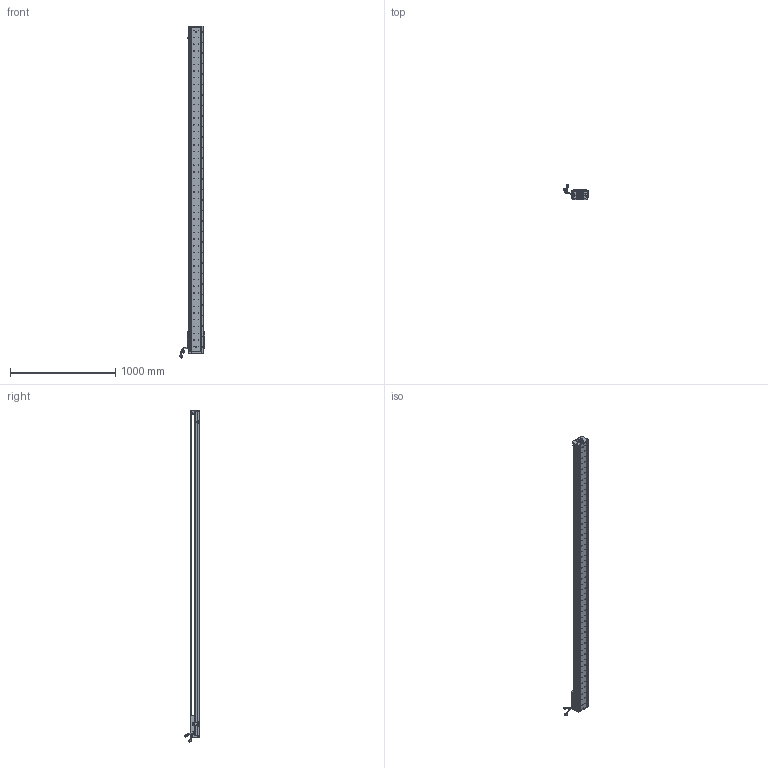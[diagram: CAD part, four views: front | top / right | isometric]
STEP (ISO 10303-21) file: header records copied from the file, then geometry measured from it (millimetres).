
FILE_DESCRIPTION (( 'STEP AP203' ), '1' );
FILE_NAME ('Z2-RY140D-1-L500-B-K.SLDASM_2850.step', '2021-05-17T07:51:30', ( '盈信电脑' ), ( '东莞市道滘镇水果街19号' ), 'SwSTEP 2.0', 'SolidWorks 2016', '' );
FILE_SCHEMA (( 'CONFIG_CONTROL_DESIGN' ));
Length unit declared in the file: millimetre
Products named in the file (36): 榋妏寠巭燃_暯_M2_2; HOLDER0; SHIELDPLATE; 140蚥薯蝶輸; SCREW-M1.6-1; SCREW-M1.7-1; SCREW-M1.6-2; Z2-RY140-L500直线电机模组底座_2850; SCALE; HARNESS-Part-2; PSLH080_PSLF2; SEAL; SCREW-M1.7; 140-Z-臏賑輸盄裔(21遴); Z-RY140詩湍狟揤裔; COVER; SCREW-M1.6; Z2-RY140圉猾敕臏賑輸(21遴); LABEL; Z-RY140感应器672光电感应片; Z-140詩湍傷裔啣; SCREW-M1.6-3; SCALE-Part-2; 覜茼ん672; COVER-Part-1; LABEL-Part-1; 080黍杅芛假蚾釱21遴; Z-RY140詩湍奻揤裔; PBU_SHEET; HARNESS-Part-1; 140雄赽晤鎢ん堤盄; HARNESS; Z2-RY140-L500詩湍100mm遵_2850; SEAL-Part-1; Z2-RY140D-1-L500-B-K.SLDASM_2850; SCALE-Part-1
Assembly tree (41 placements, depth 4):
  Z2-RY140D-1-L500-B-K.SLDASM_2850
    Z2-RY140-L500直线电机模组底座_2850
    Z-RY140感应器672光电感应片
    Z2-RY140圉猾敕臏賑輸(21遴)
    覜茼ん672  x3
    Z2-RY140-L500詩湍100mm遵_2850
    PSLH080_PSLF2
      SCALE
        SCALE-Part-1
        SCALE-Part-2
      HARNESS
        HARNESS-Part-1
        HARNESS-Part-2
      LABEL
        LABEL-Part-1
      COVER
        COVER-Part-1
      SEAL
        SEAL-Part-1
      榋妏寠巭燃_暯_M2_2
      SHIELDPLATE
      SCREW-M1.7
      SCREW-M1.7-1
      PBU_SHEET
      SCREW-M1.6
      SCREW-M1.6-1
      SCREW-M1.6-2
      SCREW-M1.6-3
      HOLDER0
    080黍杅芛假蚾釱21遴
    140-Z-臏賑輸盄裔(21遴)
    Z-140詩湍傷裔啣  x2
    Z-RY140詩湍狟揤裔  x2
    Z-RY140詩湍奻揤裔  x2
    140蚥薯蝶輸  x2
    140雄赽晤鎢ん堤盄
Bounding box: 239.79 x 143.77 x 3160.87 mm (x, y, z)
Volume: 9755706.1 mm3; surface area: 2565590.8 mm2
Topology: 36 solids, 36 shells, 4466 faces, 12234 edges, 7753 vertices
Faces by surface type: cylinder 2476, plane 1436, cone 422, torus 79, bspline 53
Entity records: 144154 total; most frequent: CARTESIAN_POINT 41701, ORIENTED_EDGE 21332, DIRECTION 19470, EDGE_CURVE 10666, AXIS2_PLACEMENT_3D 7258, VERTEX_POINT 6921, LINE 4954, VECTOR 4954
